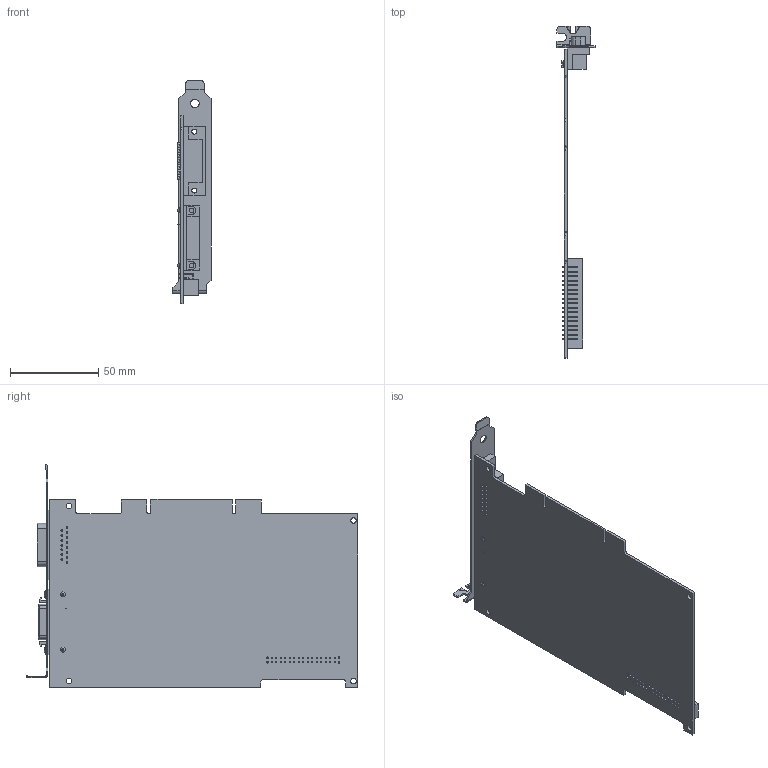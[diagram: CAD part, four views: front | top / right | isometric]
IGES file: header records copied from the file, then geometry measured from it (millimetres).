
Start section:  PTC IGES file: cu_pci-1426.igs
Global section: file name: cu_pci-1426.igs; native system: Pro/ENGINEER by Parametric Technology Corporation; preprocessor: 2010230; author: dkendric; organization: Unknown; date: 20110816.130838; units: inch
Bounding box: 21.59 x 187.77 x 126.21 mm (x, y, z)
Surface area: 46607.1 mm2 (no closed solid volume)
Topology: 0 solids, 0 shells, 992 faces, 5328 edges, 5328 vertices
Faces by surface type: bspline 747, revolution 245
